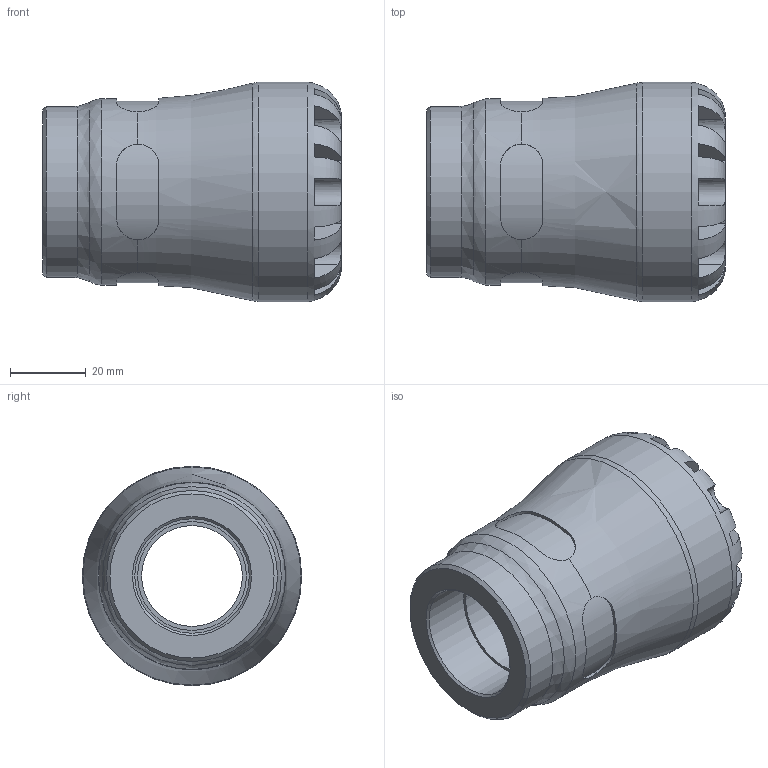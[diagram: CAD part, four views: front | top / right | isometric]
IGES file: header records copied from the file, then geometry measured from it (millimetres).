
Global section: file name: 1003G0032010_1903G0032010.ipt; native system: Autodesk Inventor 2015; preprocessor: unknown; author: KIM; date: 20190127.091354; units: millimetre
Bounding box: 79 x 58 x 58 mm (x, y, z)
Volume: 103743.2 mm3; surface area: 24786.3 mm2
Topology: 1 solids, 1 shells, 104 faces, 279 edges, 180 vertices
Faces by surface type: plane 61, revolution 27, cylinder 15, cone 1
Full cylindrical faces by diameter (mm): 45.24 x1, 49.3 x1, 58 x1
